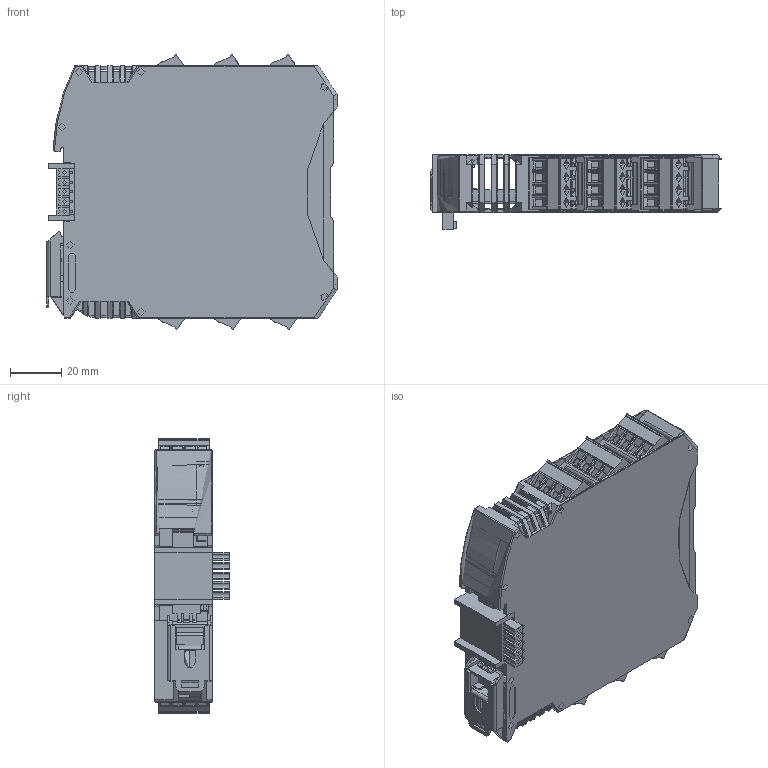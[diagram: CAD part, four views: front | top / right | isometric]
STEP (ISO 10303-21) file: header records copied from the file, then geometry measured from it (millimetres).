
FILE_DESCRIPTION(('STEP AP214'), '1');
FILE_NAME('NLS-SPE-Ethernet â ñòåïêóóóóóóó3333', '', ('UNSPECIFIED'), ('UNSPECIFIED'), 'C3D Converter', 'C3D Toolkit', '');
FILE_SCHEMA(('AUTOMOTIVE_DESIGN { 1 0 10303 214 3 1 1}'));
Length unit declared in the file: millimetre
Bounding box: 113.65 x 29.2 x 107.64 mm (x, y, z)
Topology: 8 solids, 43 shells, 7375 faces, 21111 edges, 13901 vertices
Faces by surface type: plane 5100, extrusion 1082, cylinder 1060, cone 72, bspline 33, torus 15, revolution 9, sphere 4
Full cylindrical faces by diameter (mm): 1.4 x28, 1.6 x11, 2.2 x6, 2.8 x29, 3 x16, 3.796 x24, 4 x24, 4.5 x1
Entity records: 313896 total; most frequent: CARTESIAN_POINT 67671, ORIENTED_EDGE 41880, DIRECTION 33234, EDGE_CURVE 20940, VECTOR 16687, LINE 15605, VERTEX_POINT 13901, AXIS2_PLACEMENT_3D 8269
